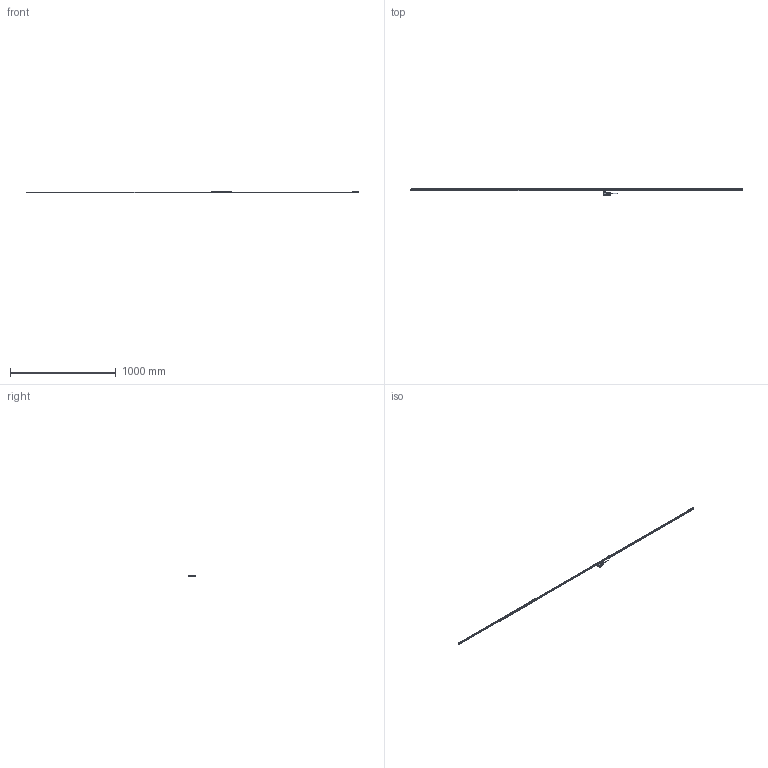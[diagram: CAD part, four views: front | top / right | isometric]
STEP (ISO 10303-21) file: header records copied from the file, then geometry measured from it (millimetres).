
FILE_DESCRIPTION(('Creo Elements/Direct Modeling STEP Export'),'2;1');
FILE_NAME('ST46EZA-3000D.stp','2018-03-22T18:03:54',(''),(''),'Creo Elements/Direct Modeling STEP processor for AP214 (Solid Model)','Creo Elements/Direct Modeling 18.1B 29-Sep-2012 (C) Parametric Technology GmbH','');
FILE_SCHEMA(('AUTOMOTIVE_DESIGN { 1 0 10303 214 1 1 1 1 }'));
Products named in the file (4): IF_Unit; Detector_Head; Scale_3000; ST46EZA-3000D
Assembly tree (3 placements, depth 2):
  ST46EZA-3000D
    Scale_3000
    Detector_Head
    IF_Unit
Bounding box: 3142 x 74.86 x 18.68 mm (x, y, z)
Volume: 3158.7 mm3; surface area: 176753.9 mm2
Topology: 1 solids, 4 shells, 2846 faces, 7643 edges, 4991 vertices
Faces by surface type: plane 1673, cylinder 960, extrusion 112, cone 38, torus 30, bspline 29, revolution 4
Entity records: 95391 total; most frequent: CARTESIAN_POINT 24892, ORIENTED_EDGE 15281, DIRECTION 13316, EDGE_CURVE 7645, VECTOR 4996, VERTEX_POINT 4995, LINE 4904, AXIS2_PLACEMENT_3D 4157
